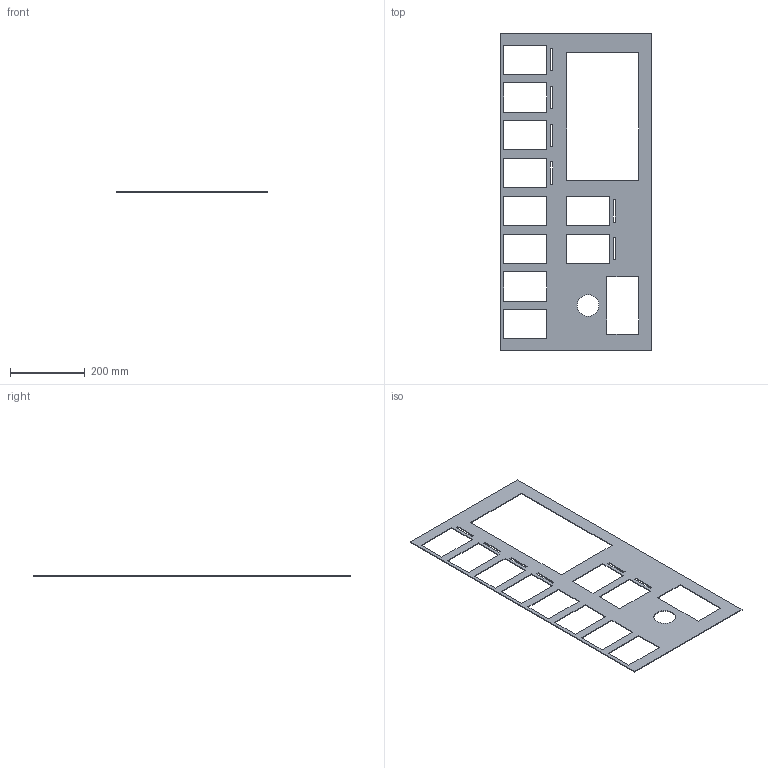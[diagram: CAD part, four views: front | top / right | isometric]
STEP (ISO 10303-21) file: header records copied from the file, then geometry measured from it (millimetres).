
FILE_DESCRIPTION(('Open CASCADE Model'),'2;1');
FILE_NAME('Open CASCADE Shape Model','2026-07-28T21:13:59',('Author'),( 'Open CASCADE'),'Open CASCADE STEP processor 7.9','Open CASCADE 7.9' ,'Unknown');
FILE_SCHEMA(('AUTOMOTIVE_DESIGN { 1 0 10303 214 1 1 1 1 }'));
Length unit declared in the file: millimetre
Products named in the file (1): Open CASCADE STEP translator 7.9 2
Bounding box: 406.64 x 849.8 x 2 mm (x, y, z)
Volume: 341858.2 mm3; surface area: 359689.7 mm2
Topology: 1 solids, 1 shells, 79 faces, 231 edges, 154 vertices
Faces by surface type: plane 78, cylinder 1
Full cylindrical faces by diameter (mm): 58 x1
Entity records: 5374 total; most frequent: CARTESIAN_POINT 1227, DIRECTION 565, ORIENTED_EDGE 462, PCURVE 462, DEFINITIONAL_REPRESENTATION 462, LINE 401, VECTOR 401, B_SPLINE_CURVE_WITH_KNOTS 288
